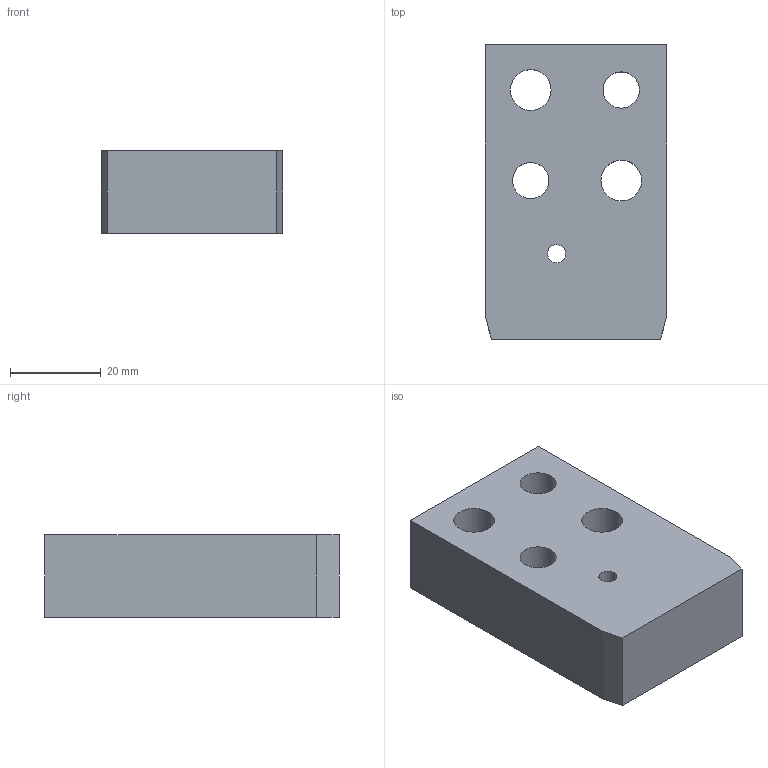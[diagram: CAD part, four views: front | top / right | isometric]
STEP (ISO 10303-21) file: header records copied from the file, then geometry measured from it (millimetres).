
FILE_DESCRIPTION(('Open CASCADE Model'),'2;1');
FILE_NAME('Open CASCADE Shape Model','2026-09-27T02:18:03',('Author'),( 'Open CASCADE'),'Open CASCADE STEP processor 7.9','Open CASCADE 7.9' ,'Unknown');
FILE_SCHEMA(('AUTOMOTIVE_DESIGN { 1 0 10303 214 1 1 1 1 }'));
Length unit declared in the file: millimetre
Products named in the file (1): Open CASCADE STEP translator 7.9 3
Bounding box: 40 x 65 x 18.27 mm (x, y, z)
Volume: 41182.3 mm3; surface area: 10995.4 mm2
Topology: 1 solids, 1 shells, 17 faces, 39 edges, 26 vertices
Faces by surface type: plane 10, cylinder 7
Full cylindrical faces by diameter (mm): 4 x1, 8 x2, 9 x2, 14 x2
Entity records: 1054 total; most frequent: CARTESIAN_POINT 221, DIRECTION 157, LINE 89, VECTOR 89, ORIENTED_EDGE 78, PCURVE 78, DEFINITIONAL_REPRESENTATION 78, EDGE_CURVE 39
